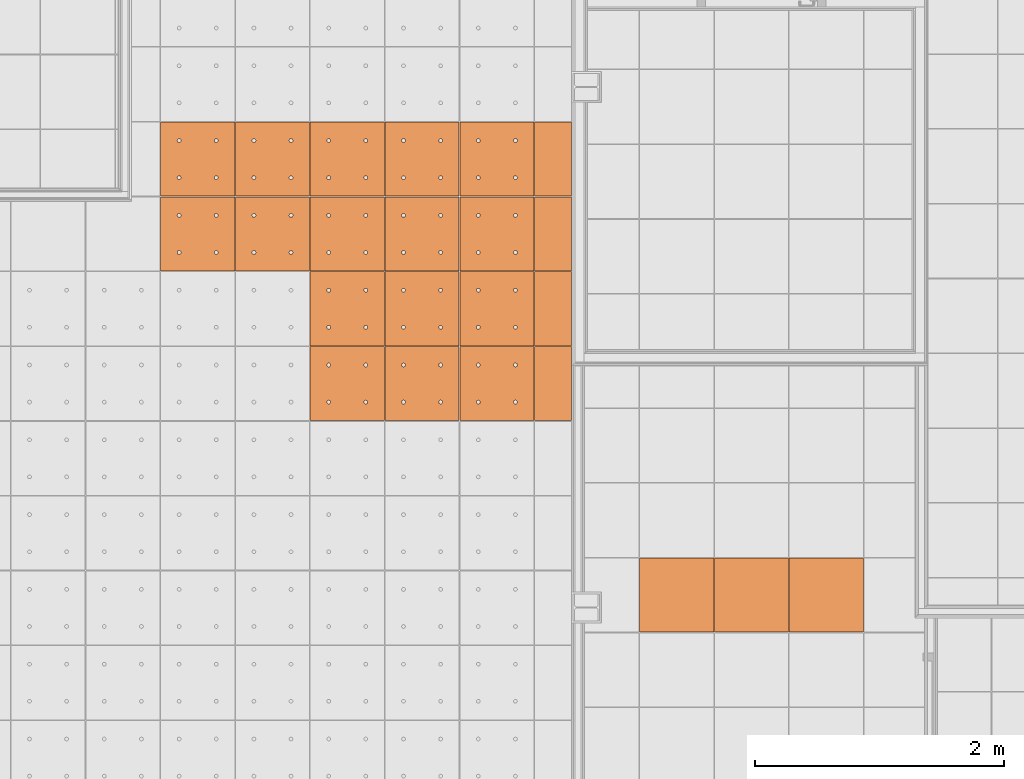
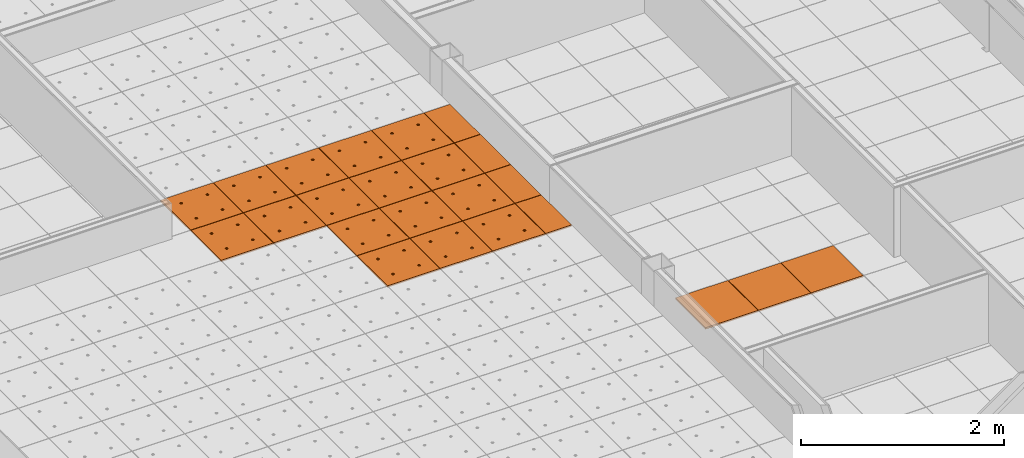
# One storey, part 254 of 338: 23 proxies, 2 elements without a shape of their own.
"""IFC2X3 building model written with IfcOpenShell, lengths in millimetres."""

from ifc_helpers import new_model, entity, si_unit, converted_unit, derived_unit, money_unit, direction, frame, origin_with_axes, place, context, subcontext, project, spatial, faceted_brep, source, transform, mapped, material, type_object, type_shapes, element, aggregate, save


model = new_model("IFC2X3")

# Units and contexts
model_context = context("Model", 3, precision=0.01, world=origin_with_axes(), true_north=direction((0.0, 1.0)))
plan_context = context("Plan", 3, precision=0.01, world=origin_with_axes(), true_north=direction((0.0, 1.0)))
body_context = subcontext(model_context, "Body", "Model", "MODEL_VIEW")
ifc_project = project(units=[si_unit("LENGTHUNIT", "METRE", prefix="MILLI"), si_unit("AREAUNIT", "SQUARE_METRE"), si_unit("VOLUMEUNIT", "CUBIC_METRE"), converted_unit("PLANEANGLEUNIT", "DEGREE", entity("IfcPlaneAngleMeasure", 0.0174532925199), si_unit("PLANEANGLEUNIT", "RADIAN"), dimensions=[0, 0, 0, 0, 0, 0, 0]), money_unit("EUR"), converted_unit("TIMEUNIT", "Year", entity("IfcTimeMeasure", 31556926.0), si_unit("TIMEUNIT", "SECOND"), dimensions=[0, 0, 1, 0, 0, 0, 0]), si_unit("MASSUNIT", "GRAM", prefix="KILO"), si_unit("THERMODYNAMICTEMPERATUREUNIT", "DEGREE_CELSIUS"), si_unit("LUMINOUSINTENSITYUNIT", "LUMEN"), si_unit("ENERGYUNIT", "JOULE", prefix="MEGA"), derived_unit("THERMALCONDUCTANCEUNIT", [(si_unit("POWERUNIT", "WATT"), 1), (si_unit("LENGTHUNIT", "METRE"), -1), (si_unit("THERMODYNAMICTEMPERATUREUNIT", "KELVIN"), -1)]), derived_unit("SPECIFICHEATCAPACITYUNIT", [(si_unit("ENERGYUNIT", "JOULE"), 1), (si_unit("MASSUNIT", "GRAM", prefix="KILO"), -1), (si_unit("THERMODYNAMICTEMPERATUREUNIT", "KELVIN"), -1)]), derived_unit("MASSDENSITYUNIT", [(si_unit("MASSUNIT", "GRAM", prefix="KILO"), 1), (si_unit("VOLUMEUNIT", "CUBIC_METRE"), -1)])], contexts=[model_context, plan_context])

# Site, building, storey
site_placement = place(None, origin_with_axes())
site = spatial("IfcSite", under=ifc_project, at=site_placement, Name="Fortuinstraat Woensdrecht", CompositionType="ELEMENT")
building_placement = place(site_placement, origin_with_axes())
building = spatial("IfcBuilding", under=site, at=building_placement, Name="IKC Fortuna", CompositionType="ELEMENT")
storey_placement = place(building_placement, origin_with_axes())
storey = spatial("IfcBuildingStorey", under=building, at=storey_placement, Name="00 begane grond", CompositionType="ELEMENT", Elevation=0.0)

# Covering, proxies
covering_type = type_object("IfcCoveringType", Name="Curtain Wall Type", PredefinedType="CEILING")
covering_1_placement = place(storey_placement, frame((21294.5342274, 19421.5253195, 2810.0), z_axis=(0.0, 0.0, 1.0), x_axis=(1.0, 0.0, 0.0)))
covering_1 = element("IfcCovering", 1, at=covering_1_placement, inside=storey, type_object=covering_type, Name="45_Plafondafwerking_P02", PredefinedType="CEILING")
ifc_material = material(Name="Gipsplaat")
building_element_proxy_type_1 = type_object("IfcBuildingElementProxyType", Name="Distinct Panel 600 x 600 x 20", PredefinedType="NOTDEFINED")
shared_shape_1 = source(origin_with_axes(), body_context, "Body", "Brep", [
    faceted_brep([(2.49999999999, 2.5, -10.0), (597.5, 2.49999999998, -10.0), (597.5, 2.49999999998, 10.0), (2.49999999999, 2.5, 10.0), (2.50000000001, 597.5, -10.0), (597.5, 597.5, -10.0), (597.5, 597.5, 10.0), (2.50000000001, 597.5, 10.0)], [[[0, 1, 2, 3]], [[0, 4, 5, 1]], [[1, 5, 6, 2]], [[3, 2, 6, 7]], [[4, 0, 3, 7]], [[5, 4, 7, 6]]]),
])
proxy_1_placement = place(covering_1_placement, frame((600.0, 600.0, 0.0), z_axis=(0.0, 0.0, 1.0), x_axis=(1.0, 0.0, 0.0)))
proxy_1 = element("IfcBuildingElementProxy", 2, at=proxy_1_placement, type_object=building_element_proxy_type_1, material=ifc_material, Name="__Panel-D", context=body_context, shape_type="MappedRepresentation", body=[
    mapped(shared_shape_1, transform((300.0, 300.0, 0.0), x_axis=(-1.0, 0.0, 0.0), y_axis=(0.0, -1.0, 0.0), z_axis=(0.0, 0.0, 1.0))),
])
shared_shape_2 = source(origin_with_axes(), body_context, "Body", "Brep", [
    faceted_brep([(2.5000069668, 2.4999963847, -10.0), (597.499995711, 2.50000275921, -10.0), (597.499995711, 2.50000275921, 10.0), (2.5000069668, 2.4999963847, 10.0), (2.50000214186, 597.499967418, -10.0), (597.499990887, 597.499973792, -10.0), (597.499990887, 597.499973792, 10.0), (2.50000214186, 597.499967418, 10.0)], [[[0, 1, 2, 3]], [[0, 4, 5, 1]], [[1, 5, 6, 2]], [[3, 2, 6, 7]], [[4, 0, 3, 7]], [[5, 4, 7, 6]]]),
])
type_shapes(building_element_proxy_type_1, [shared_shape_1, shared_shape_2])
proxy_2_placement = place(covering_1_placement, frame((0.0, 600.0, 0.0), z_axis=(0.0, 0.0, 1.0), x_axis=(1.0, 0.0, 0.0)))
proxy_2 = element("IfcBuildingElementProxy", 3, at=proxy_2_placement, type_object=building_element_proxy_type_1, material=ifc_material, Name="__Panel-D", context=body_context, shape_type="MappedRepresentation", body=[
    mapped(shared_shape_2, transform((300.0, 300.0, 0.0), x_axis=(-1.0, 0.0, 0.0), y_axis=(0.0, -1.0, 0.0), z_axis=(0.0, 0.0, 1.0))),
])
proxy_3_placement = place(covering_1_placement, frame((1200.0, 600.0, 0.0), z_axis=(0.0, 0.0, 1.0), x_axis=(1.0, 0.0, 0.0)))
proxy_3 = element("IfcBuildingElementProxy", 4, at=proxy_3_placement, type_object=building_element_proxy_type_1, material=ifc_material, Name="__Panel-D", context=body_context, shape_type="MappedRepresentation", body=[
    mapped(shared_shape_2, transform((300.0, 300.0, 0.0), x_axis=(-1.0, 0.0, 0.0), y_axis=(0.0, -1.0, 0.0), z_axis=(0.0, 0.0, 1.0))),
])
aggregate(covering_1, [proxy_2, proxy_1, proxy_3])

covering_2_placement = place(storey_placement, frame((17451.9845996, 24118.5314449, 3210.0), z_axis=(0.0, 0.0, 1.0), x_axis=(1.0, 0.0, 0.0)))
covering_2 = element("IfcCovering", 5, at=covering_2_placement, inside=storey, type_object=covering_type, Name="45_Plafondafwerking_P01", PredefinedType="CEILING")
building_element_proxy_type_2 = type_object("IfcBuildingElementProxyType", Name="Main Panel 600 x 600 x 20", PredefinedType="NOTDEFINED")
shared_shape_3 = source(origin_with_axes(), body_context, "Body", "Brep", [
    faceted_brep([(2.49999999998, 2.49999999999, -10.0), (300.0, 2.49999999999, -10.0), (300.0, 2.49999999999, 10.0), (2.49999999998, 2.49999999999, 10.0), (2.49999999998, 300.0, -10.0), (2.49999999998, 597.5, -10.0), (300.0, 597.5, -10.0), (597.5, 597.5, -10.0), (597.5, 300.0, -10.0), (597.5, 2.49999999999, -10.0), (166.25, 450.06232995, -10.0), (165.79423259, 452.64711538, -10.0), (164.896546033, 455.11348892, -10.0), (163.58421608, 457.38651108, -10.0), (161.897117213, 459.39711721, -10.0), (159.886511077, 461.08421608, -10.0), (157.613488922, 462.39654603, -10.0), (155.147115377, 463.29423259, -10.0), (152.562329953, 463.75, -10.0), (149.937670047, 463.75, -10.0), (147.352884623, 463.29423259, -10.0), (144.886511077, 462.39654603, -10.0), (142.613488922, 461.08421608, -10.0), (140.602882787, 459.39711721, -10.0), (138.91578392, 457.38651108, -10.0), (137.603453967, 455.11348892, -10.0), (136.705767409, 452.64711538, -10.0), (136.25, 450.06232995, -10.0), (136.25, 448.75, -10.0), (136.25, 447.43767005, -10.0), (136.705767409, 444.85288462, -10.0), (137.603453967, 442.38651108, -10.0), (138.91578392, 440.11348892, -10.0), (140.602882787, 438.10288279, -10.0), (142.613488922, 436.41578392, -10.0), (144.886511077, 435.10345397, -10.0), (147.352884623, 434.20576741, -10.0), (149.937670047, 433.75, -10.0), (152.562329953, 433.75, -10.0), (155.147115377, 434.20576741, -10.0), (157.613488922, 435.10345397, -10.0), (159.886511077, 436.41578392, -10.0), (161.897117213, 438.10288279, -10.0), (163.58421608, 440.11348892, -10.0), (164.896546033, 442.38651108, -10.0), (165.79423259, 444.85288462, -10.0), (166.25, 447.43767005, -10.0), (463.75, 450.06232995, -10.0), (463.29423259, 452.64711538, -10.0), (462.396546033, 455.11348892, -10.0), (461.08421608, 457.38651108, -10.0), (459.397117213, 459.39711721, -10.0), (457.386511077, 461.08421608, -10.0), (455.113488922, 462.39654603, -10.0), (452.647115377, 463.29423259, -10.0), (450.062329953, 463.75, -10.0), (447.437670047, 463.75, -10.0), (444.852884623, 463.29423259, -10.0), (442.386511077, 462.39654603, -10.0), (440.113488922, 461.08421608, -10.0), (438.102882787, 459.39711721, -10.0), (436.41578392, 457.38651108, -10.0), (435.103453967, 455.11348892, -10.0), (434.205767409, 452.64711538, -10.0), (433.75, 450.06232995, -10.0), (433.75, 448.75, -10.0), (433.75, 447.43767005, -10.0), (434.205767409, 444.85288462, -10.0), (435.103453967, 442.38651108, -10.0), (436.41578392, 440.11348892, -10.0), (438.102882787, 438.10288279, -10.0), (440.113488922, 436.41578392, -10.0), (442.386511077, 435.10345397, -10.0), (444.852884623, 434.20576741, -10.0), (447.437670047, 433.75, -10.0), (450.062329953, 433.75, -10.0), (452.647115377, 434.20576741, -10.0), (455.113488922, 435.10345397, -10.0), (457.386511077, 436.41578392, -10.0), (459.397117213, 438.10288279, -10.0), (461.08421608, 440.11348892, -10.0), (462.396546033, 442.38651108, -10.0), (463.29423259, 444.85288462, -10.0), (463.75, 447.43767005, -10.0), (463.75, 152.56232995, -10.0), (463.29423259, 155.14711538, -10.0), (462.396546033, 157.61348892, -10.0), (461.08421608, 159.88651108, -10.0), (459.397117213, 161.89711721, -10.0), (457.386511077, 163.58421608, -10.0), (455.113488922, 164.89654603, -10.0), (452.647115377, 165.79423259, -10.0), (450.062329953, 166.25, -10.0), (447.437670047, 166.25, -10.0), (444.852884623, 165.79423259, -10.0), (442.386511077, 164.89654603, -10.0), (440.113488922, 163.58421608, -10.0), (438.102882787, 161.89711721, -10.0), (436.41578392, 159.88651108, -10.0), (435.103453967, 157.61348892, -10.0), (434.205767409, 155.14711538, -10.0), (433.75, 152.56232995, -10.0), (433.75, 151.25, -10.0), (433.75, 149.93767005, -10.0), (434.205767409, 147.35288462, -10.0), (435.103453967, 144.88651108, -10.0), (436.41578392, 142.61348892, -10.0), (438.102882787, 140.60288279, -10.0), (440.113488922, 138.91578392, -10.0), (442.386511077, 137.60345397, -10.0), (444.852884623, 136.70576741, -10.0), (447.437670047, 136.25, -10.0), (450.062329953, 136.25, -10.0), (452.647115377, 136.70576741, -10.0), (455.113488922, 137.60345397, -10.0), (457.386511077, 138.91578392, -10.0), (459.397117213, 140.60288279, -10.0), (461.08421608, 142.61348892, -10.0), (462.396546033, 144.88651108, -10.0), (463.29423259, 147.35288462, -10.0), (463.75, 149.93767005, -10.0), (166.25, 152.56232995, -10.0), (165.79423259, 155.14711538, -10.0), (164.896546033, 157.61348892, -10.0), (163.58421608, 159.88651108, -10.0), (161.897117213, 161.89711721, -10.0), (159.886511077, 163.58421608, -10.0), (157.613488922, 164.89654603, -10.0), (155.147115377, 165.79423259, -10.0), (152.562329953, 166.25, -10.0), (149.937670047, 166.25, -10.0), (147.352884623, 165.79423259, -10.0), (144.886511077, 164.89654603, -10.0), (142.613488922, 163.58421608, -10.0), (140.602882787, 161.89711721, -10.0), (138.91578392, 159.88651108, -10.0), (137.603453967, 157.61348892, -10.0), (136.705767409, 155.14711538, -10.0), (136.25, 152.56232995, -10.0), (136.25, 151.25, -10.0), (136.25, 149.93767005, -10.0), (136.705767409, 147.35288462, -10.0), (137.603453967, 144.88651108, -10.0), (138.91578392, 142.61348892, -10.0), (140.602882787, 140.60288279, -10.0), (142.613488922, 138.91578392, -10.0), (144.886511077, 137.60345397, -10.0), (147.352884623, 136.70576741, -10.0), (149.937670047, 136.25, -10.0), (152.562329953, 136.25, -10.0), (155.147115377, 136.70576741, -10.0), (157.613488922, 137.60345397, -10.0), (159.886511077, 138.91578392, -10.0), (161.897117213, 140.60288279, -10.0), (163.58421608, 142.61348892, -10.0), (164.896546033, 144.88651108, -10.0), (165.79423259, 147.35288462, -10.0), (166.25, 149.93767005, -10.0), (597.5, 2.49999999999, 10.0), (597.5, 300.0, 10.0), (597.5, 597.5, 10.0), (300.0, 597.5, 10.0), (2.49999999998, 597.5, 10.0), (2.49999999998, 300.0, 10.0), (166.25, 450.06232995, 10.0), (166.25, 447.43767005, 10.0), (165.79423259, 444.85288462, 10.0), (164.896546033, 442.38651108, 10.0), (163.58421608, 440.11348892, 10.0), (161.897117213, 438.10288279, 10.0), (159.886511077, 436.41578392, 10.0), (157.613488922, 435.10345397, 10.0), (155.147115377, 434.20576741, 10.0), (152.562329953, 433.75, 10.0), (149.937670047, 433.75, 10.0), (147.352884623, 434.20576741, 10.0), (144.886511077, 435.10345397, 10.0), (142.613488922, 436.41578392, 10.0), (140.602882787, 438.10288279, 10.0), (138.91578392, 440.11348892, 10.0), (137.603453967, 442.38651108, 10.0), (136.705767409, 444.85288462, 10.0), (136.25, 447.43767005, 10.0), (136.25, 448.75, 10.0), (136.25, 450.06232995, 10.0), (136.705767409, 452.64711538, 10.0), (137.603453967, 455.11348892, 10.0), (138.91578392, 457.38651108, 10.0), (140.602882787, 459.39711721, 10.0), (142.613488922, 461.08421608, 10.0), (144.886511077, 462.39654603, 10.0), (147.352884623, 463.29423259, 10.0), (149.937670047, 463.75, 10.0), (152.562329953, 463.75, 10.0), (155.147115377, 463.29423259, 10.0), (157.613488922, 462.39654603, 10.0), (159.886511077, 461.08421608, 10.0), (161.897117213, 459.39711721, 10.0), (163.58421608, 457.38651108, 10.0), (164.896546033, 455.11348892, 10.0), (165.79423259, 452.64711538, 10.0), (463.75, 450.06232995, 10.0), (463.75, 447.43767005, 10.0), (463.29423259, 444.85288462, 10.0), (462.396546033, 442.38651108, 10.0), (461.08421608, 440.11348892, 10.0), (459.397117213, 438.10288279, 10.0), (457.386511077, 436.41578392, 10.0), (455.113488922, 435.10345397, 10.0), (452.647115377, 434.20576741, 10.0), (450.062329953, 433.75, 10.0), (447.437670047, 433.75, 10.0), (444.852884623, 434.20576741, 10.0), (442.386511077, 435.10345397, 10.0), (440.113488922, 436.41578392, 10.0), (438.102882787, 438.10288279, 10.0), (436.41578392, 440.11348892, 10.0), (435.103453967, 442.38651108, 10.0), (434.205767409, 444.85288462, 10.0), (433.75, 447.43767005, 10.0), (433.75, 448.75, 10.0), (433.75, 450.06232995, 10.0), (434.205767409, 452.64711538, 10.0), (435.103453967, 455.11348892, 10.0), (436.41578392, 457.38651108, 10.0), (438.102882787, 459.39711721, 10.0), (440.113488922, 461.08421608, 10.0), (442.386511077, 462.39654603, 10.0), (444.852884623, 463.29423259, 10.0), (447.437670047, 463.75, 10.0), (450.062329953, 463.75, 10.0), (452.647115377, 463.29423259, 10.0), (455.113488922, 462.39654603, 10.0), (457.386511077, 461.08421608, 10.0), (459.397117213, 459.39711721, 10.0), (461.08421608, 457.38651108, 10.0), (462.396546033, 455.11348892, 10.0), (463.29423259, 452.64711538, 10.0), (463.75, 152.56232995, 10.0), (463.75, 149.93767005, 10.0), (463.29423259, 147.35288462, 10.0), (462.396546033, 144.88651108, 10.0), (461.08421608, 142.61348892, 10.0), (459.397117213, 140.60288279, 10.0), (457.386511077, 138.91578392, 10.0), (455.113488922, 137.60345397, 10.0), (452.647115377, 136.70576741, 10.0), (450.062329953, 136.25, 10.0), (447.437670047, 136.25, 10.0), (444.852884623, 136.70576741, 10.0), (442.386511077, 137.60345397, 10.0), (440.113488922, 138.91578392, 10.0), (438.102882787, 140.60288279, 10.0), (436.41578392, 142.61348892, 10.0), (435.103453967, 144.88651108, 10.0), (434.205767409, 147.35288462, 10.0), (433.75, 149.93767005, 10.0), (433.75, 151.25, 10.0), (433.75, 152.56232995, 10.0), (434.205767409, 155.14711538, 10.0), (435.103453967, 157.61348892, 10.0), (436.41578392, 159.88651108, 10.0), (438.102882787, 161.89711721, 10.0), (440.113488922, 163.58421608, 10.0), (442.386511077, 164.89654603, 10.0), (444.852884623, 165.79423259, 10.0), (447.437670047, 166.25, 10.0), (450.062329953, 166.25, 10.0), (452.647115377, 165.79423259, 10.0), (455.113488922, 164.89654603, 10.0), (457.386511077, 163.58421608, 10.0), (459.397117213, 161.89711721, 10.0), (461.08421608, 159.88651108, 10.0), (462.396546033, 157.61348892, 10.0), (463.29423259, 155.14711538, 10.0), (166.25, 152.56232995, 10.0), (166.25, 149.93767005, 10.0), (165.79423259, 147.35288462, 10.0), (164.896546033, 144.88651108, 10.0), (163.58421608, 142.61348892, 10.0), (161.897117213, 140.60288279, 10.0), (159.886511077, 138.91578392, 10.0), (157.613488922, 137.60345397, 10.0), (155.147115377, 136.70576741, 10.0), (152.562329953, 136.25, 10.0), (149.937670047, 136.25, 10.0), (147.352884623, 136.70576741, 10.0), (144.886511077, 137.60345397, 10.0), (142.613488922, 138.91578392, 10.0), (140.602882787, 140.60288279, 10.0), (138.91578392, 142.61348892, 10.0), (137.603453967, 144.88651108, 10.0), (136.705767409, 147.35288462, 10.0), (136.25, 149.93767005, 10.0), (136.25, 151.25, 10.0), (136.25, 152.56232995, 10.0), (136.705767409, 155.14711538, 10.0), (137.603453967, 157.61348892, 10.0), (138.91578392, 159.88651108, 10.0), (140.602882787, 161.89711721, 10.0), (142.613488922, 163.58421608, 10.0), (144.886511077, 164.89654603, 10.0), (147.352884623, 165.79423259, 10.0), (149.937670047, 166.25, 10.0), (152.562329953, 166.25, 10.0), (155.147115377, 165.79423259, 10.0), (157.613488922, 164.89654603, 10.0), (159.886511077, 163.58421608, 10.0), (161.897117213, 161.89711721, 10.0), (163.58421608, 159.88651108, 10.0), (164.896546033, 157.61348892, 10.0), (165.79423259, 155.14711538, 10.0)], [[[0, 1, 2, 3]], [[0, 4, 5, 6, 7, 8, 9, 1], [10, 11, 12, 13, 14, 15, 16, 17, 18, 19, 20, 21, 22, 23, 24, 25, 26, 27, 28, 29, 30, 31, 32, 33, 34, 35, 36, 37, 38, 39, 40, 41, 42, 43, 44, 45, 46], [47, 48, 49, 50, 51, 52, 53, 54, 55, 56, 57, 58, 59, 60, 61, 62, 63, 64, 65, 66, 67, 68, 69, 70, 71, 72, 73, 74, 75, 76, 77, 78, 79, 80, 81, 82, 83], [84, 85, 86, 87, 88, 89, 90, 91, 92, 93, 94, 95, 96, 97, 98, 99, 100, 101, 102, 103, 104, 105, 106, 107, 108, 109, 110, 111, 112, 113, 114, 115, 116, 117, 118, 119, 120], [121, 122, 123, 124, 125, 126, 127, 128, 129, 130, 131, 132, 133, 134, 135, 136, 137, 138, 139, 140, 141, 142, 143, 144, 145, 146, 147, 148, 149, 150, 151, 152, 153, 154, 155, 156, 157]], [[1, 9, 158, 2]], [[3, 2, 158, 159, 160, 161, 162, 163], [164, 165, 166, 167, 168, 169, 170, 171, 172, 173, 174, 175, 176, 177, 178, 179, 180, 181, 182, 183, 184, 185, 186, 187, 188, 189, 190, 191, 192, 193, 194, 195, 196, 197, 198, 199, 200], [201, 202, 203, 204, 205, 206, 207, 208, 209, 210, 211, 212, 213, 214, 215, 216, 217, 218, 219, 220, 221, 222, 223, 224, 225, 226, 227, 228, 229, 230, 231, 232, 233, 234, 235, 236, 237], [238, 239, 240, 241, 242, 243, 244, 245, 246, 247, 248, 249, 250, 251, 252, 253, 254, 255, 256, 257, 258, 259, 260, 261, 262, 263, 264, 265, 266, 267, 268, 269, 270, 271, 272, 273, 274], [275, 276, 277, 278, 279, 280, 281, 282, 283, 284, 285, 286, 287, 288, 289, 290, 291, 292, 293, 294, 295, 296, 297, 298, 299, 300, 301, 302, 303, 304, 305, 306, 307, 308, 309, 310, 311]], [[4, 0, 3, 163]], [[5, 4, 163, 162]], [[6, 5, 162, 161]], [[7, 6, 161, 160]], [[8, 7, 160, 159]], [[9, 8, 159, 158]], [[11, 10, 164, 200]], [[12, 11, 200, 199]], [[13, 12, 199, 198]], [[14, 13, 198, 197]], [[15, 14, 197, 196]], [[16, 15, 196, 195]], [[17, 16, 195, 194]], [[18, 17, 194, 193]], [[19, 18, 193, 192]], [[20, 19, 192, 191]], [[21, 20, 191, 190]], [[22, 21, 190, 189]], [[23, 22, 189, 188]], [[24, 23, 188, 187]], [[25, 24, 187, 186]], [[26, 25, 186, 185]], [[27, 26, 185, 184]], [[28, 27, 184, 183]], [[29, 28, 183, 182]], [[30, 29, 182, 181]], [[31, 30, 181, 180]], [[32, 31, 180, 179]], [[33, 32, 179, 178]], [[34, 33, 178, 177]], [[35, 34, 177, 176]], [[36, 35, 176, 175]], [[37, 36, 175, 174]], [[38, 37, 174, 173]], [[39, 38, 173, 172]], [[40, 39, 172, 171]], [[41, 40, 171, 170]], [[42, 41, 170, 169]], [[43, 42, 169, 168]], [[44, 43, 168, 167]], [[45, 44, 167, 166]], [[46, 45, 166, 165]], [[10, 46, 165, 164]], [[48, 47, 201, 237]], [[49, 48, 237, 236]], [[50, 49, 236, 235]], [[51, 50, 235, 234]], [[52, 51, 234, 233]], [[53, 52, 233, 232]], [[54, 53, 232, 231]], [[55, 54, 231, 230]], [[56, 55, 230, 229]], [[57, 56, 229, 228]], [[58, 57, 228, 227]], [[59, 58, 227, 226]], [[60, 59, 226, 225]], [[61, 60, 225, 224]], [[62, 61, 224, 223]], [[63, 62, 223, 222]], [[64, 63, 222, 221]], [[65, 64, 221, 220]], [[66, 65, 220, 219]], [[67, 66, 219, 218]], [[68, 67, 218, 217]], [[69, 68, 217, 216]], [[70, 69, 216, 215]], [[71, 70, 215, 214]], [[72, 71, 214, 213]], [[73, 72, 213, 212]], [[74, 73, 212, 211]], [[75, 74, 211, 210]], [[76, 75, 210, 209]], [[77, 76, 209, 208]], [[78, 77, 208, 207]], [[79, 78, 207, 206]], [[80, 79, 206, 205]], [[81, 80, 205, 204]], [[82, 81, 204, 203]], [[83, 82, 203, 202]], [[47, 83, 202, 201]], [[85, 84, 238, 274]], [[86, 85, 274, 273]], [[87, 86, 273, 272]], [[88, 87, 272, 271]], [[89, 88, 271, 270]], [[90, 89, 270, 269]], [[91, 90, 269, 268]], [[92, 91, 268, 267]], [[93, 92, 267, 266]], [[94, 93, 266, 265]], [[95, 94, 265, 264]], [[96, 95, 264, 263]], [[97, 96, 263, 262]], [[98, 97, 262, 261]], [[99, 98, 261, 260]], [[100, 99, 260, 259]], [[101, 100, 259, 258]], [[102, 101, 258, 257]], [[103, 102, 257, 256]], [[104, 103, 256, 255]], [[105, 104, 255, 254]], [[106, 105, 254, 253]], [[107, 106, 253, 252]], [[108, 107, 252, 251]], [[109, 108, 251, 250]], [[110, 109, 250, 249]], [[111, 110, 249, 248]], [[112, 111, 248, 247]], [[113, 112, 247, 246]], [[114, 113, 246, 245]], [[115, 114, 245, 244]], [[116, 115, 244, 243]], [[117, 116, 243, 242]], [[118, 117, 242, 241]], [[119, 118, 241, 240]], [[120, 119, 240, 239]], [[84, 120, 239, 238]], [[122, 121, 275, 311]], [[123, 122, 311, 310]], [[124, 123, 310, 309]], [[125, 124, 309, 308]], [[126, 125, 308, 307]], [[127, 126, 307, 306]], [[128, 127, 306, 305]], [[129, 128, 305, 304]], [[130, 129, 304, 303]], [[131, 130, 303, 302]], [[132, 131, 302, 301]], [[133, 132, 301, 300]], [[134, 133, 300, 299]], [[135, 134, 299, 298]], [[136, 135, 298, 297]], [[137, 136, 297, 296]], [[138, 137, 296, 295]], [[139, 138, 295, 294]], [[140, 139, 294, 293]], [[141, 140, 293, 292]], [[142, 141, 292, 291]], [[143, 142, 291, 290]], [[144, 143, 290, 289]], [[145, 144, 289, 288]], [[146, 145, 288, 287]], [[147, 146, 287, 286]], [[148, 147, 286, 285]], [[149, 148, 285, 284]], [[150, 149, 284, 283]], [[151, 150, 283, 282]], [[152, 151, 282, 281]], [[153, 152, 281, 280]], [[154, 153, 280, 279]], [[155, 154, 279, 278]], [[156, 155, 278, 277]], [[157, 156, 277, 276]], [[121, 157, 276, 275]]]),
])
type_shapes(building_element_proxy_type_2, [shared_shape_3])
proxy_4_placement = place(covering_2_placement, frame((2400.0, -600.0, 0.0), z_axis=(0.0, 0.0, 1.0), x_axis=(1.0, 0.0, 0.0)))
proxy_4 = element("IfcBuildingElementProxy", 6, at=proxy_4_placement, type_object=building_element_proxy_type_2, material=ifc_material, Name="__600x668 Rockfon Krios", context=body_context, shape_type="MappedRepresentation", body=[
    mapped(shared_shape_3, transform((300.0, 300.0, 0.0), x_axis=(-1.0, 0.0, 0.0), y_axis=(0.0, -1.0, 0.0), z_axis=(0.0, 0.0, 1.0))),
])
proxy_5_placement = place(covering_2_placement, frame((2400.0, -1200.0, 0.0), z_axis=(0.0, 0.0, 1.0), x_axis=(1.0, 0.0, 0.0)))
proxy_5 = element("IfcBuildingElementProxy", 7, at=proxy_5_placement, type_object=building_element_proxy_type_2, material=ifc_material, Name="__600x669 Rockfon Krios", context=body_context, shape_type="MappedRepresentation", body=[
    mapped(shared_shape_3, transform((300.0, 300.0, 0.0), x_axis=(-1.0, 0.0, 0.0), y_axis=(0.0, -1.0, 0.0), z_axis=(0.0, 0.0, 1.0))),
])
proxy_6_placement = place(covering_2_placement, frame((2400.0, -1800.0, 0.0), z_axis=(0.0, 0.0, 1.0), x_axis=(1.0, 0.0, 0.0)))
proxy_6 = element("IfcBuildingElementProxy", 8, at=proxy_6_placement, type_object=building_element_proxy_type_2, material=ifc_material, Name="__600x670 Rockfon Krios", context=body_context, shape_type="MappedRepresentation", body=[
    mapped(shared_shape_3, transform((300.0, 300.0, 0.0), x_axis=(-1.0, 0.0, 0.0), y_axis=(0.0, -1.0, 0.0), z_axis=(0.0, 0.0, 1.0))),
])
proxy_7_placement = place(covering_2_placement, frame((2400.0, -2400.0, 0.0), z_axis=(0.0, 0.0, 1.0), x_axis=(1.0, 0.0, 0.0)))
proxy_7 = element("IfcBuildingElementProxy", 9, at=proxy_7_placement, type_object=building_element_proxy_type_2, material=ifc_material, Name="__600x671 Rockfon Krios", context=body_context, shape_type="MappedRepresentation", body=[
    mapped(shared_shape_3, transform((300.0, 300.0, 0.0), x_axis=(-1.0, 0.0, 0.0), y_axis=(0.0, -1.0, 0.0), z_axis=(0.0, 0.0, 1.0))),
])
proxy_8_placement = place(covering_2_placement, frame((1800.0, -600.0, 0.0), z_axis=(0.0, 0.0, 1.0), x_axis=(1.0, 0.0, 0.0)))
proxy_8 = element("IfcBuildingElementProxy", 10, at=proxy_8_placement, type_object=building_element_proxy_type_2, material=ifc_material, Name="__600x681 Rockfon Krios", context=body_context, shape_type="MappedRepresentation", body=[
    mapped(shared_shape_3, transform((300.0, 300.0, 0.0), x_axis=(-1.0, 0.0, 0.0), y_axis=(0.0, -1.0, 0.0), z_axis=(0.0, 0.0, 1.0))),
])
proxy_9_placement = place(covering_2_placement, frame((1800.0, -1200.0, 0.0), z_axis=(0.0, 0.0, 1.0), x_axis=(1.0, 0.0, 0.0)))
proxy_9 = element("IfcBuildingElementProxy", 11, at=proxy_9_placement, type_object=building_element_proxy_type_2, material=ifc_material, Name="__600x682 Rockfon Krios", context=body_context, shape_type="MappedRepresentation", body=[
    mapped(shared_shape_3, transform((300.0, 300.0, 0.0), x_axis=(-1.0, 0.0, 0.0), y_axis=(0.0, -1.0, 0.0), z_axis=(0.0, 0.0, 1.0))),
])
proxy_10_placement = place(covering_2_placement, frame((1800.0, -1800.0, 0.0), z_axis=(0.0, 0.0, 1.0), x_axis=(1.0, 0.0, 0.0)))
proxy_10 = element("IfcBuildingElementProxy", 12, at=proxy_10_placement, type_object=building_element_proxy_type_2, material=ifc_material, Name="__600x683 Rockfon Krios", context=body_context, shape_type="MappedRepresentation", body=[
    mapped(shared_shape_3, transform((300.0, 300.0, 0.0), x_axis=(-1.0, 0.0, 0.0), y_axis=(0.0, -1.0, 0.0), z_axis=(0.0, 0.0, 1.0))),
])
proxy_11_placement = place(covering_2_placement, frame((1800.0, -2400.0, 0.0), z_axis=(0.0, 0.0, 1.0), x_axis=(1.0, 0.0, 0.0)))
proxy_11 = element("IfcBuildingElementProxy", 13, at=proxy_11_placement, type_object=building_element_proxy_type_2, material=ifc_material, Name="__600x684 Rockfon Krios", context=body_context, shape_type="MappedRepresentation", body=[
    mapped(shared_shape_3, transform((300.0, 300.0, 0.0), x_axis=(-1.0, 0.0, 0.0), y_axis=(0.0, -1.0, 0.0), z_axis=(0.0, 0.0, 1.0))),
])
proxy_12_placement = place(covering_2_placement, frame((1200.0, -600.0, 0.0), z_axis=(0.0, 0.0, 1.0), x_axis=(1.0, 0.0, 0.0)))
proxy_12 = element("IfcBuildingElementProxy", 14, at=proxy_12_placement, type_object=building_element_proxy_type_2, material=ifc_material, Name="__600x694 Rockfon Krios", context=body_context, shape_type="MappedRepresentation", body=[
    mapped(shared_shape_3, transform((300.0, 300.0, 0.0), x_axis=(-1.0, 0.0, 0.0), y_axis=(0.0, -1.0, 0.0), z_axis=(0.0, 0.0, 1.0))),
])
proxy_13_placement = place(covering_2_placement, frame((1200.0, -1200.0, 0.0), z_axis=(0.0, 0.0, 1.0), x_axis=(1.0, 0.0, 0.0)))
proxy_13 = element("IfcBuildingElementProxy", 15, at=proxy_13_placement, type_object=building_element_proxy_type_2, material=ifc_material, Name="__600x695 Rockfon Krios", context=body_context, shape_type="MappedRepresentation", body=[
    mapped(shared_shape_3, transform((300.0, 300.0, 0.0), x_axis=(-1.0, 0.0, 0.0), y_axis=(0.0, -1.0, 0.0), z_axis=(0.0, 0.0, 1.0))),
])
proxy_14_placement = place(covering_2_placement, frame((1200.0, -1800.0, 0.0), z_axis=(0.0, 0.0, 1.0), x_axis=(1.0, 0.0, 0.0)))
proxy_14 = element("IfcBuildingElementProxy", 16, at=proxy_14_placement, type_object=building_element_proxy_type_2, material=ifc_material, Name="__600x696 Rockfon Krios", context=body_context, shape_type="MappedRepresentation", body=[
    mapped(shared_shape_3, transform((300.0, 300.0, 0.0), x_axis=(-1.0, 0.0, 0.0), y_axis=(0.0, -1.0, 0.0), z_axis=(0.0, 0.0, 1.0))),
])
proxy_15_placement = place(covering_2_placement, frame((1200.0, -2400.0, 0.0), z_axis=(0.0, 0.0, 1.0), x_axis=(1.0, 0.0, 0.0)))
proxy_15 = element("IfcBuildingElementProxy", 17, at=proxy_15_placement, type_object=building_element_proxy_type_2, material=ifc_material, Name="__600x697 Rockfon Krios", context=body_context, shape_type="MappedRepresentation", body=[
    mapped(shared_shape_3, transform((300.0, 300.0, 0.0), x_axis=(-1.0, 0.0, 0.0), y_axis=(0.0, -1.0, 0.0), z_axis=(0.0, 0.0, 1.0))),
])
proxy_16_placement = place(covering_2_placement, frame((600.0, -600.0, 0.0), z_axis=(0.0, 0.0, 1.0), x_axis=(1.0, 0.0, 0.0)))
proxy_16 = element("IfcBuildingElementProxy", 18, at=proxy_16_placement, type_object=building_element_proxy_type_2, material=ifc_material, Name="__600x707 Rockfon Krios", context=body_context, shape_type="MappedRepresentation", body=[
    mapped(shared_shape_3, transform((300.0, 300.0, 0.0), x_axis=(-1.0, 0.0, 0.0), y_axis=(0.0, -1.0, 0.0), z_axis=(0.0, 0.0, 1.0))),
])
proxy_17_placement = place(covering_2_placement, frame((600.0, -1200.0, 0.0), z_axis=(0.0, 0.0, 1.0), x_axis=(1.0, 0.0, 0.0)))
proxy_17 = element("IfcBuildingElementProxy", 19, at=proxy_17_placement, type_object=building_element_proxy_type_2, material=ifc_material, Name="__600x708 Rockfon Krios", context=body_context, shape_type="MappedRepresentation", body=[
    mapped(shared_shape_3, transform((300.0, 300.0, 0.0), x_axis=(-1.0, 0.0, 0.0), y_axis=(0.0, -1.0, 0.0), z_axis=(0.0, 0.0, 1.0))),
])
proxy_18_placement = place(covering_2_placement, frame((0.0, -600.0, 0.0), z_axis=(0.0, 0.0, 1.0), x_axis=(1.0, 0.0, 0.0)))
proxy_18 = element("IfcBuildingElementProxy", 20, at=proxy_18_placement, type_object=building_element_proxy_type_2, material=ifc_material, Name="__600x720 Rockfon Krios", context=body_context, shape_type="MappedRepresentation", body=[
    mapped(shared_shape_3, transform((300.0, 300.0, 0.0), x_axis=(-1.0, 0.0, 0.0), y_axis=(0.0, -1.0, 0.0), z_axis=(0.0, 0.0, 1.0))),
])
proxy_19_placement = place(covering_2_placement, frame((0.0, -1200.0, 0.0), z_axis=(0.0, 0.0, 1.0), x_axis=(1.0, 0.0, 0.0)))
proxy_19 = element("IfcBuildingElementProxy", 21, at=proxy_19_placement, type_object=building_element_proxy_type_2, material=ifc_material, Name="__600x721 Rockfon Krios", context=body_context, shape_type="MappedRepresentation", body=[
    mapped(shared_shape_3, transform((300.0, 300.0, 0.0), x_axis=(-1.0, 0.0, 0.0), y_axis=(0.0, -1.0, 0.0), z_axis=(0.0, 0.0, 1.0))),
])
building_element_proxy_type_3 = type_object("IfcBuildingElementProxyType", Name="300 x 600 x 20", PredefinedType="NOTDEFINED")
shared_shape_4 = source(origin_with_axes(), body_context, "Body", "Brep", [
    faceted_brep([(302.549576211, 2.5, -10.0), (597.5, 2.49999999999, -10.0), (597.5, 2.49999999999, 10.0), (302.549576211, 2.5, 10.0), (302.549576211, 597.5, -10.0), (597.5, 597.5, -10.0), (597.5, 597.5, 10.0), (302.549576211, 597.5, 10.0)], [[[0, 1, 2, 3]], [[0, 4, 5, 1]], [[1, 5, 6, 2]], [[3, 2, 6, 7]], [[4, 0, 3, 7]], [[5, 4, 7, 6]]]),
])
proxy_20_placement = place(covering_2_placement, frame((2849.97521203, -1800.0, 0.0), z_axis=(0.0, 0.0, 1.0), x_axis=(1.0, 0.0, 0.0)))
proxy_20 = element("IfcBuildingElementProxy", 22, at=proxy_20_placement, type_object=building_element_proxy_type_3, material=ifc_material, Name="__600x632 Rockfon Krios", context=body_context, shape_type="MappedRepresentation", body=[
    mapped(shared_shape_4, transform((450.024787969, 300.0, 0.0), x_axis=(-1.0, 0.0, 0.0), y_axis=(0.0, -1.0, 0.0), z_axis=(0.0, 0.0, 1.0))),
])
proxy_21_placement = place(covering_2_placement, frame((2849.97521203, -600.0, 0.0), z_axis=(0.0, 0.0, 1.0), x_axis=(1.0, 0.0, 0.0)))
proxy_21 = element("IfcBuildingElementProxy", 23, at=proxy_21_placement, type_object=building_element_proxy_type_3, material=ifc_material, Name="__600x633 Rockfon Krios", context=body_context, shape_type="MappedRepresentation", body=[
    mapped(shared_shape_4, transform((450.024787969, 300.0, 0.0), x_axis=(-1.0, 0.0, 0.0), y_axis=(0.0, -1.0, 0.0), z_axis=(0.0, 0.0, 1.0))),
])
proxy_22_placement = place(covering_2_placement, frame((2849.97521203, -1200.0, 0.0), z_axis=(0.0, 0.0, 1.0), x_axis=(1.0, 0.0, 0.0)))
proxy_22 = element("IfcBuildingElementProxy", 24, at=proxy_22_placement, type_object=building_element_proxy_type_3, material=ifc_material, Name="__600x659 Rockfon Krios", context=body_context, shape_type="MappedRepresentation", body=[
    mapped(shared_shape_4, transform((450.024787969, 300.0, 0.0), x_axis=(-1.0, 0.0, 0.0), y_axis=(0.0, -1.0, 0.0), z_axis=(0.0, 0.0, 1.0))),
])
shared_shape_5 = source(origin_with_axes(), body_context, "Body", "Brep", [
    faceted_brep([(302.549576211, 2.5, -10.0), (597.5, 2.49999999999, -10.0), (597.5, 2.49999999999, 10.0), (302.549576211, 2.5, 10.0), (302.549576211, 597.5, -10.0), (597.5, 597.5, -10.0), (597.5, 597.5, 10.0), (302.549576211, 597.5, 10.0)], [[[0, 1, 2, 3]], [[0, 4, 5, 1]], [[1, 5, 6, 2]], [[3, 2, 6, 7]], [[4, 0, 3, 7]], [[5, 4, 7, 6]]]),
])
type_shapes(building_element_proxy_type_3, [shared_shape_4, shared_shape_5])
proxy_23_placement = place(covering_2_placement, frame((2849.97521203, -2400.0, 0.0), z_axis=(0.0, 0.0, 1.0), x_axis=(1.0, 0.0, 0.0)))
proxy_23 = element("IfcBuildingElementProxy", 25, at=proxy_23_placement, type_object=building_element_proxy_type_3, material=ifc_material, Name="__600x719 Rockfon Krios", context=body_context, shape_type="MappedRepresentation", body=[
    mapped(shared_shape_5, transform((450.024787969, 300.0, 0.0), x_axis=(-1.0, 0.0, 0.0), y_axis=(0.0, -1.0, 0.0), z_axis=(0.0, 0.0, 1.0))),
])
aggregate(covering_2, [proxy_20, proxy_21, proxy_22, proxy_4, proxy_5, proxy_6, proxy_7, proxy_8, proxy_9, proxy_10, proxy_11, proxy_12, proxy_13, proxy_14, proxy_15, proxy_16, proxy_17, proxy_23, proxy_18, proxy_19])

save(model, "model.ifc")
